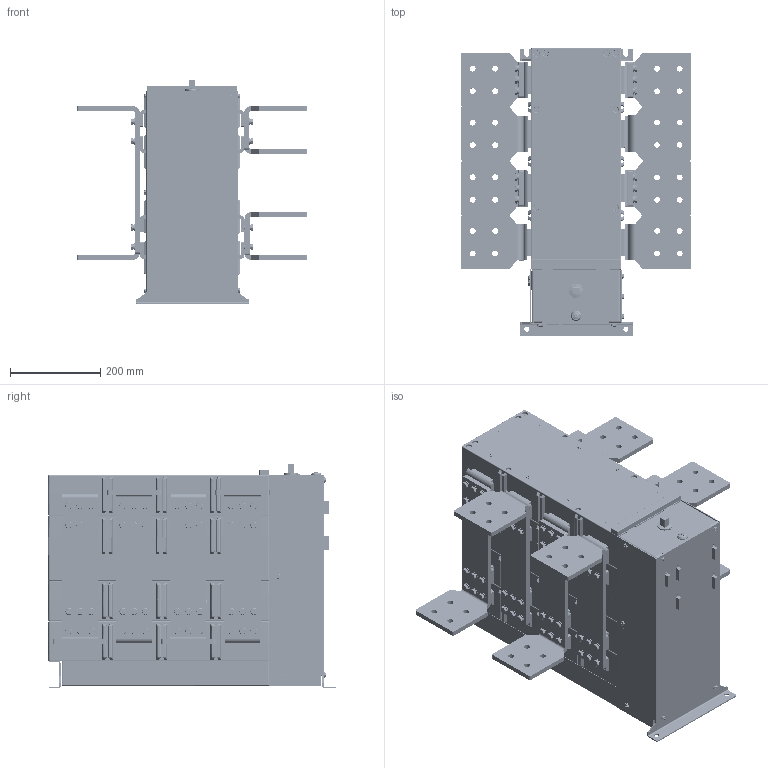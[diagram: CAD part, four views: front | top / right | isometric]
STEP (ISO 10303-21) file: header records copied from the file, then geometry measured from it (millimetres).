
FILE_DESCRIPTION((''),'2;1');
FILE_NAME('NH40-3150-4SZ_ASM_ASM','2020-11-04T',('shift'),(''),'CREO PARAMETRIC BY PTC INC, 2014500','CREO PARAMETRIC BY PTC INC, 2014500','');
FILE_SCHEMA(('AUTOMOTIVE_DESIGN { 1 0 10303 214 1 1 1 1 }'));
Products named in the file (35): MSBR5_1_1_2_1_1; MSBR18_1_1_1_1_1; MSBR6_1_1_2_1_1; MSBR15_1_1_2_1_1; MSBR4_1_1_2_1_1; MSBR16_1_1_2_1_1; MSBR2_1_1_2_1_1; ADMI0FB0CDB70BN3_ASM_1_ASM_1__2_ASM; 1000A_ASM_1_ASM_1_ASM_1_ASM_1_A_ASM; 1000A_ASM_ASM_1_ASM_1_ASM_1_ASM_ASM; SHANGGAI1_7_1_1; SHNGGAIZI_5_1_1; SHANGGAI3_4_1_1; TONGJIANANZHUANG_1_1_1; ANZHUANGJIAO_1_1_1; DIJIAO_1_1_1; SHANGBAN_1_1_1; CEBAN_3_1_1; CEBAN2_2_1_1; HENGLIANG_1_1_1; HONGZHISHI_1_1_1; YAOSHI_1_1_1; JIEXIANDUANZI_1_1_1; CEBANLUOSI_1_1_1; TONGJIANGUDNGLUOSI_1_1_1; CHURUCHUTOU3150_2_1_1; NH40-2000-4SZ_ASM_6_ASM_1_ASM_1_ASM; NH40-2500-3150-4SZ_ASM_1_ASM_1_ASM; 1_2; 2_4; 3_2; 4_1; 5_3; NH40-3150-4SZ_ASM_1_ASM; NH40-3150-4SZ_ASM_ASM
Assembly tree (180 placements, depth 8):
  NH40-3150-4SZ_ASM_ASM
    NH40-3150-4SZ_ASM_1_ASM
      NH40-2500-3150-4SZ_ASM_1_ASM_1_ASM
        NH40-2000-4SZ_ASM_6_ASM_1_ASM_1_ASM
          1000A_ASM_ASM_1_ASM_1_ASM_1_ASM_ASM
            1000A_ASM_1_ASM_1_ASM_1_ASM_1_A_ASM
              ADMI0FB0CDB70BN3_ASM_1_ASM_1__2_ASM
                MSBR5_1_1_2_1_1
                MSBR18_1_1_1_1_1
                MSBR6_1_1_2_1_1
                MSBR15_1_1_2_1_1
                MSBR4_1_1_2_1_1
                MSBR16_1_1_2_1_1
                MSBR2_1_1_2_1_1
          SHANGGAI1_7_1_1
          SHNGGAIZI_5_1_1  x2
          SHANGGAI3_4_1_1
          TONGJIANANZHUANG_1_1_1  x32
          ANZHUANGJIAO_1_1_1
          DIJIAO_1_1_1
          SHANGBAN_1_1_1
          CEBAN_3_1_1
          CEBAN2_2_1_1
          HENGLIANG_1_1_1
          HONGZHISHI_1_1_1
          YAOSHI_1_1_1
          JIEXIANDUANZI_1_1_1  x5
          CEBANLUOSI_1_1_1  x10
          TONGJIANGUDNGLUOSI_1_1_1  x96
          CHURUCHUTOU3150_2_1_1  x2
      1_2  x2
      2_4  x2
      3_2  x2
      4_1  x2
      5_3  x2
Bounding box: 510.7 x 640.23 x 498.68 mm (x, y, z)
Volume: 51170961.4 mm3; surface area: 4819391.5 mm2
Topology: 174 solids, 174 shells, 9464 faces, 23575 edges, 15096 vertices
Faces by surface type: plane 4906, cylinder 3434, bspline 513, cone 222, torus 205, sphere 108, extrusion 76
Entity records: 204236 total; most frequent: CARTESIAN_POINT 61158, ORIENTED_EDGE 23288, DIRECTION 21200, EDGE_CURVE 11644, PRESENTATION_STYLE_ASSIGNMENT 10289, STYLED_ITEM 10289, CURVE_STYLE 10107, VECTOR 7548
